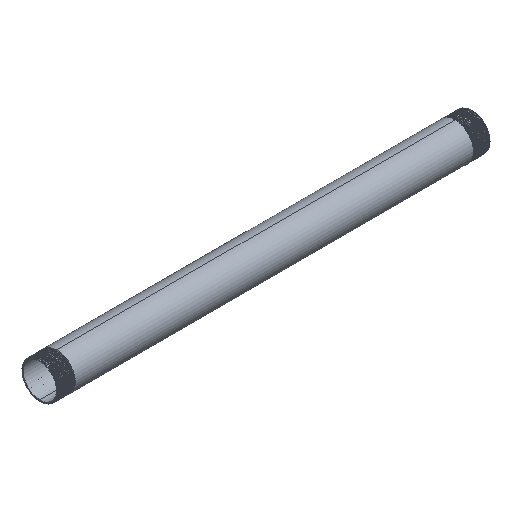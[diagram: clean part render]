
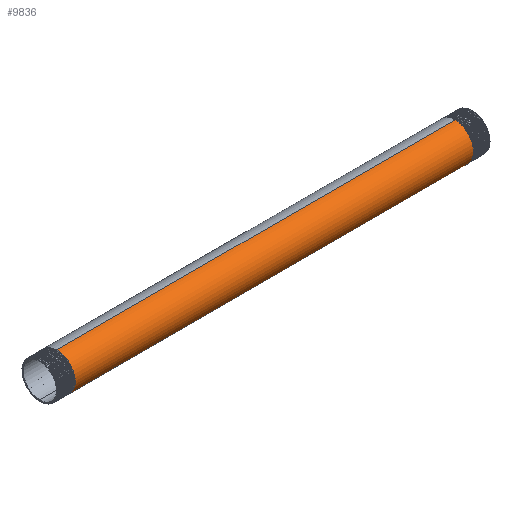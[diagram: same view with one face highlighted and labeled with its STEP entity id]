
A CAD part, isometric view. The second image highlights one B-rep face of the part: STEP entity #9836.
In plain terms, the highlighted cylindrical face has radius 21.2 mm (diameter 42.4 mm), a partial arc.
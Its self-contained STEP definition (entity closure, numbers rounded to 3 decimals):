
#95 = DIRECTION ( 'NONE',  ( 0., 0., 1. ) ) ;
#270 = CARTESIAN_POINT ( 'NONE',  ( 230.297, -21.2, 8.781 ) ) ;
#391 = ORIENTED_EDGE ( 'NONE', *, *, #1866, .F. ) ;
#1011 = CARTESIAN_POINT ( 'NONE',  ( -229.984, -8.781, -21.2 ) ) ;
#1152 = CARTESIAN_POINT ( 'NONE',  ( -230.219, -21.2, 0. ) ) ;
#1252 = CARTESIAN_POINT ( 'NONE',  ( 230.453, -8.781, 21.2 ) ) ;
#1457 = LINE ( 'NONE', #5761, #11139 ) ;
#1866 = EDGE_CURVE ( 'NONE', #6439, #11607, #12342, .T. ) ;
#1935 = AXIS2_PLACEMENT_3D ( 'NONE', #9685, #2256, #95 ) ;
#2256 = DIRECTION ( 'NONE',  ( -1., 0., 0. ) ) ;
#2337 = ORIENTED_EDGE ( 'NONE', *, *, #8080, .T. ) ;
#2503 = CARTESIAN_POINT ( 'NONE',  ( 230.375, -14.991, 14.991 ) ) ;
#2574 = CARTESIAN_POINT ( 'NONE',  ( -230.531, 0., 21.2 ) ) ;
#4144 = CARTESIAN_POINT ( 'NONE',  ( 229.906, 0., -21.2 ) ) ;
#4240 = CARTESIAN_POINT ( 'NONE',  ( -230.141, -21.2, -8.781 ) ) ;
#4622 = CARTESIAN_POINT ( 'NONE',  ( 230.141, -21.2, -8.781 ) ) ;
#4635 = CARTESIAN_POINT ( 'NONE',  ( -149.494, 0., -21.2 ) ) ;
#5313 = CARTESIAN_POINT ( 'NONE',  ( -230.063, -14.991, -14.991 ) ) ;
#5381 = FACE_OUTER_BOUND ( 'NONE', #6639, .T. ) ;
#5452 = CARTESIAN_POINT ( 'NONE',  ( -230.531, 0., 21.2 ) ) ;
#5761 = CARTESIAN_POINT ( 'NONE',  ( -149.494, 0., 21.2 ) ) ;
#5841 = EDGE_CURVE ( 'NONE', #11607, #13380, #6323, .T. ) ;
#6323 =( BOUNDED_CURVE ( )  B_SPLINE_CURVE ( 2, ( #7559, #1011, #5313, #4240, #1152, #12880, #8419, #7492, #5452 ),
 .UNSPECIFIED., .F., .F. ) 
 B_SPLINE_CURVE_WITH_KNOTS ( ( 3, 2, 2, 2, 3 ),
 ( 0., 0.006, 0.012, 0.019, 0.025 ),
 .UNSPECIFIED. ) 
 CURVE ( )  GEOMETRIC_REPRESENTATION_ITEM ( )  RATIONAL_B_SPLINE_CURVE ( ( 1., 0.924, 1., 0.924, 1., 0.924, 1., 0.924, 1. ) ) 
 REPRESENTATION_ITEM ( '' )  );
#6374 = ORIENTED_EDGE ( 'NONE', *, *, #5841, .F. ) ;
#6439 = VERTEX_POINT ( 'NONE', #4144 ) ;
#6639 = EDGE_LOOP ( 'NONE', ( #391, #2337, #11396, #6374 ) ) ;
#7492 = CARTESIAN_POINT ( 'NONE',  ( -230.453, -8.781, 21.2 ) ) ;
#7559 = CARTESIAN_POINT ( 'NONE',  ( -229.906, 0., -21.2 ) ) ;
#7736 = CARTESIAN_POINT ( 'NONE',  ( 230.063, -14.991, -14.991 ) ) ;
#8080 = EDGE_CURVE ( 'NONE', #6439, #9910, #13462, .T. ) ;
#8419 = CARTESIAN_POINT ( 'NONE',  ( -230.375, -14.991, 14.991 ) ) ;
#8952 = DIRECTION ( 'NONE',  ( -1., 0., 0. ) ) ;
#9152 = VECTOR ( 'NONE', #8952, 1000. ) ;
#9254 = CARTESIAN_POINT ( 'NONE',  ( -229.906, 0., -21.2 ) ) ;
#9676 = CARTESIAN_POINT ( 'NONE',  ( 230.531, 0., 21.2 ) ) ;
#9685 = CARTESIAN_POINT ( 'NONE',  ( -149.494, 0., 0. ) ) ;
#9836 = ADVANCED_FACE ( 'NONE', ( #5381 ), #13861, .T. ) ;
#9910 = VERTEX_POINT ( 'NONE', #9676 ) ;
#9923 = CARTESIAN_POINT ( 'NONE',  ( 229.984, -8.781, -21.2 ) ) ;
#11139 = VECTOR ( 'NONE', #12258, 1000. ) ;
#11396 = ORIENTED_EDGE ( 'NONE', *, *, #13379, .T. ) ;
#11607 = VERTEX_POINT ( 'NONE', #9254 ) ;
#11984 = CARTESIAN_POINT ( 'NONE',  ( 230.219, -21.2, 0. ) ) ;
#12049 = CARTESIAN_POINT ( 'NONE',  ( 230.531, 0., 21.2 ) ) ;
#12119 = CARTESIAN_POINT ( 'NONE',  ( 229.906, 0., -21.2 ) ) ;
#12258 = DIRECTION ( 'NONE',  ( -1., 0., 0. ) ) ;
#12342 = LINE ( 'NONE', #4635, #9152 ) ;
#12880 = CARTESIAN_POINT ( 'NONE',  ( -230.297, -21.2, 8.781 ) ) ;
#13379 = EDGE_CURVE ( 'NONE', #9910, #13380, #1457, .T. ) ;
#13380 = VERTEX_POINT ( 'NONE', #2574 ) ;
#13462 =( BOUNDED_CURVE ( )  B_SPLINE_CURVE ( 2, ( #12119, #9923, #7736, #4622, #11984, #270, #2503, #1252, #12049 ),
 .UNSPECIFIED., .F., .F. ) 
 B_SPLINE_CURVE_WITH_KNOTS ( ( 3, 2, 2, 2, 3 ),
 ( 0., 0.006, 0.012, 0.019, 0.025 ),
 .UNSPECIFIED. ) 
 CURVE ( )  GEOMETRIC_REPRESENTATION_ITEM ( )  RATIONAL_B_SPLINE_CURVE ( ( 1., 0.924, 1., 0.924, 1., 0.924, 1., 0.924, 1. ) ) 
 REPRESENTATION_ITEM ( '' )  );
#13861 = CYLINDRICAL_SURFACE ( 'NONE', #1935, 21.2 ) ;
